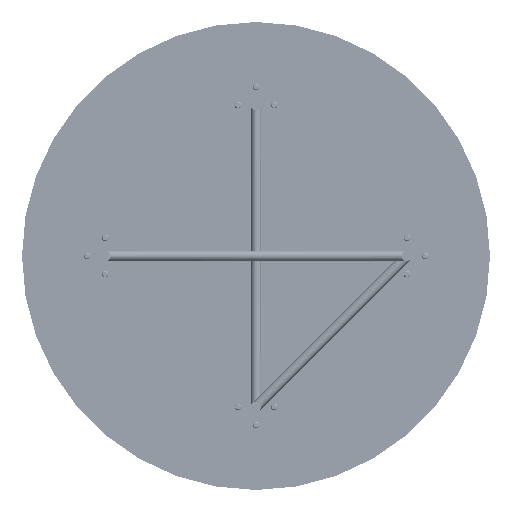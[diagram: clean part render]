
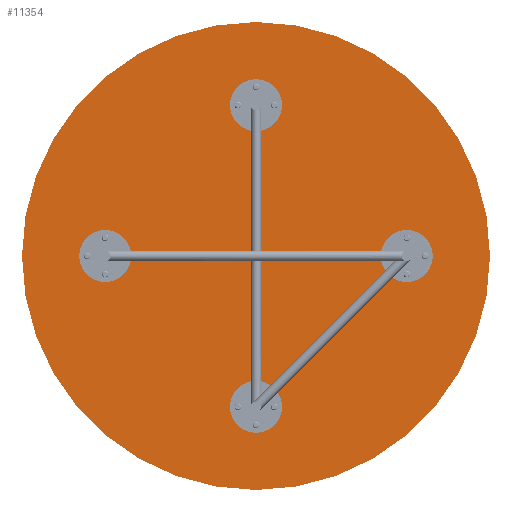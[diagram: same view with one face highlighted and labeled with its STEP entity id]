
A CAD part, front view. The second image highlights one B-rep face of the part: STEP entity #11354.
In plain terms, the highlighted planar face has unit normal (0, -1, 0).
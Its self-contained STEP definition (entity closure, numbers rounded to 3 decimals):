
#3 = DIRECTION ( 'NONE',  ( 0., 0., -1. ) ) ;
#78 = ORIENTED_EDGE ( 'NONE', *, *, #5829, .F. ) ;
#105 = CARTESIAN_POINT ( 'NONE',  ( 0., 0., -450. ) ) ;
#425 = AXIS2_PLACEMENT_3D ( 'NONE', #9042, #14480, #5635 ) ;
#849 = CIRCLE ( 'NONE', #13097, 50. ) ;
#1061 = DIRECTION ( 'NONE',  ( 0., 0., -1. ) ) ;
#1103 = FACE_BOUND ( 'NONE', #1821, .T. ) ;
#1162 = CARTESIAN_POINT ( 'NONE',  ( 290., 0., -50. ) ) ;
#1392 = CARTESIAN_POINT ( 'NONE',  ( -290., 0., -50. ) ) ;
#1591 = DIRECTION ( 'NONE',  ( 0., 0., -1. ) ) ;
#1761 = ORIENTED_EDGE ( 'NONE', *, *, #16426, .F. ) ;
#1821 = EDGE_LOOP ( 'NONE', ( #5239, #7858 ) ) ;
#2010 = AXIS2_PLACEMENT_3D ( 'NONE', #17412, #10636, #8118 ) ;
#2276 = EDGE_CURVE ( 'NONE', #16709, #11784, #9624, .T. ) ;
#2651 = CARTESIAN_POINT ( 'NONE',  ( 0., 0., 0. ) ) ;
#2880 = AXIS2_PLACEMENT_3D ( 'NONE', #11499, #8800, #6801 ) ;
#2911 = DIRECTION ( 'NONE',  ( 0., 0., -1. ) ) ;
#3115 = AXIS2_PLACEMENT_3D ( 'NONE', #7092, #13803, #1591 ) ;
#3174 = CARTESIAN_POINT ( 'NONE',  ( 0., 0., 290. ) ) ;
#3470 = DIRECTION ( 'NONE',  ( 0., 1., 0. ) ) ;
#3600 = PLANE ( 'NONE',  #425 ) ;
#3865 = VERTEX_POINT ( 'NONE', #1162 ) ;
#3905 = VERTEX_POINT ( 'NONE', #3920 ) ;
#3920 = CARTESIAN_POINT ( 'NONE',  ( 0., 0., -240. ) ) ;
#4009 = EDGE_LOOP ( 'NONE', ( #78, #15821 ) ) ;
#4525 = CIRCLE ( 'NONE', #3115, 50. ) ;
#4925 = FACE_BOUND ( 'NONE', #15411, .T. ) ;
#5146 = VERTEX_POINT ( 'NONE', #11594 ) ;
#5239 = ORIENTED_EDGE ( 'NONE', *, *, #5568, .F. ) ;
#5343 = CARTESIAN_POINT ( 'NONE',  ( 0., 0., -290. ) ) ;
#5497 = CIRCLE ( 'NONE', #15468, 50. ) ;
#5568 = EDGE_CURVE ( 'NONE', #3865, #10507, #15650, .T. ) ;
#5635 = DIRECTION ( 'NONE',  ( 0., 0., 1. ) ) ;
#5687 = ORIENTED_EDGE ( 'NONE', *, *, #13927, .F. ) ;
#5829 = EDGE_CURVE ( 'NONE', #6724, #3905, #849, .T. ) ;
#5856 = DIRECTION ( 'NONE',  ( 0., 0., 1. ) ) ;
#5954 = EDGE_CURVE ( 'NONE', #3905, #6724, #16246, .T. ) ;
#5960 = DIRECTION ( 'NONE',  ( 0., 0., -1. ) ) ;
#6394 = CARTESIAN_POINT ( 'NONE',  ( -290., 0., 0. ) ) ;
#6526 = FACE_BOUND ( 'NONE', #13514, .T. ) ;
#6676 = DIRECTION ( 'NONE',  ( 0., -1., 0. ) ) ;
#6724 = VERTEX_POINT ( 'NONE', #14847 ) ;
#6801 = DIRECTION ( 'NONE',  ( 0., 0., -1. ) ) ;
#7092 = CARTESIAN_POINT ( 'NONE',  ( -290., 0., 0. ) ) ;
#7414 = AXIS2_PLACEMENT_3D ( 'NONE', #2651, #9590, #10674 ) ;
#7795 = CARTESIAN_POINT ( 'NONE',  ( 290., 0., 0. ) ) ;
#7858 = ORIENTED_EDGE ( 'NONE', *, *, #9918, .F. ) ;
#8057 = EDGE_LOOP ( 'NONE', ( #5687, #8143 ) ) ;
#8118 = DIRECTION ( 'NONE',  ( 0., 0., -1. ) ) ;
#8143 = ORIENTED_EDGE ( 'NONE', *, *, #14476, .F. ) ;
#8800 = DIRECTION ( 'NONE',  ( 0., -1., 0. ) ) ;
#9042 = CARTESIAN_POINT ( 'NONE',  ( 0., 0., 0. ) ) ;
#9053 = CARTESIAN_POINT ( 'NONE',  ( 0., 0., 340. ) ) ;
#9064 = AXIS2_PLACEMENT_3D ( 'NONE', #14080, #3470, #5856 ) ;
#9156 = DIRECTION ( 'NONE',  ( 0., 0., -1. ) ) ;
#9570 = ORIENTED_EDGE ( 'NONE', *, *, #13903, .F. ) ;
#9590 = DIRECTION ( 'NONE',  ( 0., 1., 0. ) ) ;
#9624 = CIRCLE ( 'NONE', #17297, 50. ) ;
#9918 = EDGE_CURVE ( 'NONE', #10507, #3865, #5497, .T. ) ;
#9978 = AXIS2_PLACEMENT_3D ( 'NONE', #7795, #13244, #9156 ) ;
#10507 = VERTEX_POINT ( 'NONE', #11383 ) ;
#10636 = DIRECTION ( 'NONE',  ( 0., -1., 0. ) ) ;
#10674 = DIRECTION ( 'NONE',  ( 0., 0., 1. ) ) ;
#10847 = ORIENTED_EDGE ( 'NONE', *, *, #2276, .F. ) ;
#11058 = ORIENTED_EDGE ( 'NONE', *, *, #14238, .F. ) ;
#11295 = CARTESIAN_POINT ( 'NONE',  ( -290., 0., 50. ) ) ;
#11354 = ADVANCED_FACE ( 'NONE', ( #1103, #17248, #4925, #6526, #15807 ), #3600, .F. ) ;
#11383 = CARTESIAN_POINT ( 'NONE',  ( 290., 0., 50. ) ) ;
#11499 = CARTESIAN_POINT ( 'NONE',  ( 0., 0., 290. ) ) ;
#11594 = CARTESIAN_POINT ( 'NONE',  ( 0., 0., 450. ) ) ;
#11784 = VERTEX_POINT ( 'NONE', #1392 ) ;
#11863 = DIRECTION ( 'NONE',  ( 0., -1., 0. ) ) ;
#12015 = CIRCLE ( 'NONE', #13714, 50. ) ;
#12294 = CIRCLE ( 'NONE', #2880, 50. ) ;
#13097 = AXIS2_PLACEMENT_3D ( 'NONE', #5343, #6676, #3 ) ;
#13244 = DIRECTION ( 'NONE',  ( 0., -1., 0. ) ) ;
#13464 = VERTEX_POINT ( 'NONE', #105 ) ;
#13514 = EDGE_LOOP ( 'NONE', ( #11058, #9570 ) ) ;
#13714 = AXIS2_PLACEMENT_3D ( 'NONE', #3174, #15113, #2911 ) ;
#13803 = DIRECTION ( 'NONE',  ( 0., -1., 0. ) ) ;
#13903 = EDGE_CURVE ( 'NONE', #16539, #15999, #12294, .T. ) ;
#13920 = CIRCLE ( 'NONE', #9064, 450. ) ;
#13927 = EDGE_CURVE ( 'NONE', #13464, #5146, #15116, .T. ) ;
#14080 = CARTESIAN_POINT ( 'NONE',  ( 0., 0., 0. ) ) ;
#14091 = CARTESIAN_POINT ( 'NONE',  ( 290., 0., 0. ) ) ;
#14238 = EDGE_CURVE ( 'NONE', #15999, #16539, #12015, .T. ) ;
#14476 = EDGE_CURVE ( 'NONE', #5146, #13464, #13920, .T. ) ;
#14480 = DIRECTION ( 'NONE',  ( 0., 1., 0. ) ) ;
#14847 = CARTESIAN_POINT ( 'NONE',  ( 0., 0., -340. ) ) ;
#14920 = CARTESIAN_POINT ( 'NONE',  ( 0., 0., 240. ) ) ;
#15113 = DIRECTION ( 'NONE',  ( 0., -1., 0. ) ) ;
#15116 = CIRCLE ( 'NONE', #7414, 450. ) ;
#15411 = EDGE_LOOP ( 'NONE', ( #1761, #10847 ) ) ;
#15468 = AXIS2_PLACEMENT_3D ( 'NONE', #14091, #15764, #5960 ) ;
#15650 = CIRCLE ( 'NONE', #9978, 50. ) ;
#15764 = DIRECTION ( 'NONE',  ( 0., -1., 0. ) ) ;
#15807 = FACE_OUTER_BOUND ( 'NONE', #8057, .T. ) ;
#15821 = ORIENTED_EDGE ( 'NONE', *, *, #5954, .F. ) ;
#15999 = VERTEX_POINT ( 'NONE', #14920 ) ;
#16246 = CIRCLE ( 'NONE', #2010, 50. ) ;
#16426 = EDGE_CURVE ( 'NONE', #11784, #16709, #4525, .T. ) ;
#16539 = VERTEX_POINT ( 'NONE', #9053 ) ;
#16709 = VERTEX_POINT ( 'NONE', #11295 ) ;
#17248 = FACE_BOUND ( 'NONE', #4009, .T. ) ;
#17297 = AXIS2_PLACEMENT_3D ( 'NONE', #6394, #11863, #1061 ) ;
#17412 = CARTESIAN_POINT ( 'NONE',  ( 0., 0., -290. ) ) ;
